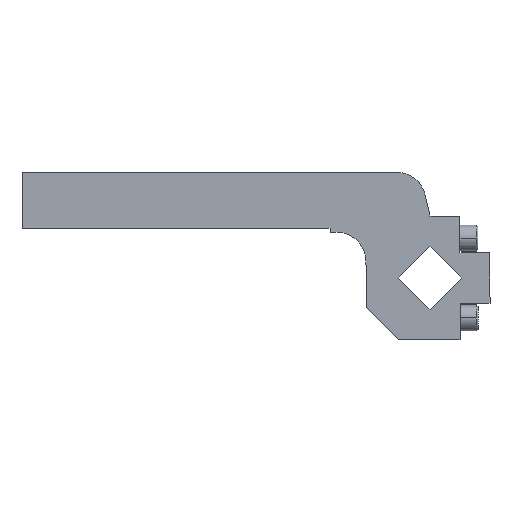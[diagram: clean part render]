
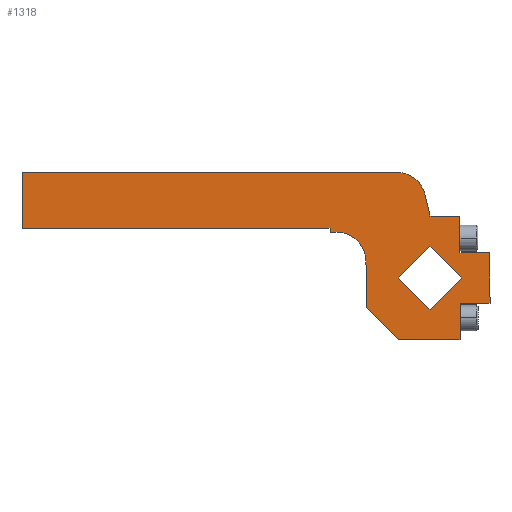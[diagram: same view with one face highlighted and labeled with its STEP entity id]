
A CAD part, front view. The second image highlights one B-rep face of the part: STEP entity #1318.
In plain terms, the highlighted planar face has unit normal (0, -1, 0).
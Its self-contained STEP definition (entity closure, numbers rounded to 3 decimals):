
#51=CARTESIAN_POINT('',(53.607,-10.,-6.393));
#52=VERTEX_POINT('',#51);
#68=CARTESIAN_POINT('',(58.,-10.0,-17.0));
#69=VERTEX_POINT('',#68);
#76=CARTESIAN_POINT('',(43.,-10.0,-17.));
#77=DIRECTION('',(0.,-1.,0.));
#78=DIRECTION('',(0.707,0.,0.707));
#79=AXIS2_PLACEMENT_3D('',#76,#77,#78);
#80=CIRCLE('',#79,15.);
#81=EDGE_CURVE('',#69,#52,#80,.T.);
#93=CARTESIAN_POINT('',(82.327,-10.,24.739));
#94=VERTEX_POINT('',#93);
#110=CARTESIAN_POINT('',(72.989,-10.0,28.));
#111=VERTEX_POINT('',#110);
#118=CARTESIAN_POINT('',(72.989,-10.0,13.0));
#119=DIRECTION('',(0.,1.0,0.));
#120=DIRECTION('',(0.623,0.,0.783));
#121=AXIS2_PLACEMENT_3D('',#118,#119,#120);
#122=CIRCLE('',#121,15.);
#123=EDGE_CURVE('',#111,#94,#122,.T.);
#765=CARTESIAN_POINT('',(-114.,-10.,0.));
#766=VERTEX_POINT('',#765);
#773=CARTESIAN_POINT('',(-114.0,-10.,28.));
#774=VERTEX_POINT('',#773);
#775=CARTESIAN_POINT('',(-114.0,-10.,28.));
#776=DIRECTION('',(0.0,0.0,-1.0));
#777=VECTOR('',#776,28.);
#778=LINE('',#775,#777);
#779=EDGE_CURVE('',#774,#766,#778,.T.);
#941=CARTESIAN_POINT('',(105.556,-10.0,-25.));
#942=VERTEX_POINT('',#941);
#943=CARTESIAN_POINT('',(90.,-10.0,-40.556));
#944=VERTEX_POINT('',#943);
#945=CARTESIAN_POINT('',(105.556,-10.0,-25.));
#946=DIRECTION('',(-0.707,0.0,-0.707));
#947=VECTOR('',#946,22.);
#948=LINE('',#945,#947);
#949=EDGE_CURVE('',#942,#944,#948,.T.);
#981=CARTESIAN_POINT('',(90.,-10.0,-9.444));
#982=VERTEX_POINT('',#981);
#983=CARTESIAN_POINT('',(90.,-10.0,-9.444));
#984=DIRECTION('',(0.707,0.0,-0.707));
#985=VECTOR('',#984,22.);
#986=LINE('',#983,#985);
#987=EDGE_CURVE('',#982,#942,#986,.T.);
#1012=CARTESIAN_POINT('',(90.,-10.0,6.));
#1013=VERTEX_POINT('',#1012);
#1014=CARTESIAN_POINT('',(105.,-10.0,6.));
#1015=VERTEX_POINT('',#1014);
#1016=CARTESIAN_POINT('',(90.,-10.0,6.));
#1017=DIRECTION('',(1.0,0.0,0.0));
#1018=VECTOR('',#1017,15.0);
#1019=LINE('',#1016,#1018);
#1020=EDGE_CURVE('',#1013,#1015,#1019,.T.);
#1052=CARTESIAN_POINT('',(105.,-10.0,-12.25));
#1053=VERTEX_POINT('',#1052);
#1054=CARTESIAN_POINT('',(105.,-10.0,6.));
#1055=DIRECTION('',(0.0,0.0,-1.0));
#1056=VECTOR('',#1055,18.25);
#1057=LINE('',#1054,#1056);
#1058=EDGE_CURVE('',#1015,#1053,#1057,.T.);
#1087=CARTESIAN_POINT('',(120.,-10.0,-12.25));
#1088=VERTEX_POINT('',#1087);
#1089=CARTESIAN_POINT('',(105.,-10.0,-12.25));
#1090=DIRECTION('',(1.0,0.0,0.0));
#1091=VECTOR('',#1090,15.0);
#1092=LINE('',#1089,#1091);
#1093=EDGE_CURVE('',#1053,#1088,#1092,.T.);
#1118=CARTESIAN_POINT('',(120.,-10.0,-37.75));
#1119=VERTEX_POINT('',#1118);
#1120=CARTESIAN_POINT('',(120.,-10.0,-12.25));
#1121=DIRECTION('',(0.0,0.0,-1.0));
#1122=VECTOR('',#1121,25.5);
#1123=LINE('',#1120,#1122);
#1124=EDGE_CURVE('',#1088,#1119,#1123,.T.);
#1149=CARTESIAN_POINT('',(105.,-10.0,-37.75));
#1150=VERTEX_POINT('',#1149);
#1151=CARTESIAN_POINT('',(120.,-10.0,-37.75));
#1152=DIRECTION('',(-1.0,0.0,0.0));
#1153=VECTOR('',#1152,15.0);
#1154=LINE('',#1151,#1153);
#1155=EDGE_CURVE('',#1119,#1150,#1154,.T.);
#1180=CARTESIAN_POINT('',(105.,-10.0,-56.));
#1181=VERTEX_POINT('',#1180);
#1182=CARTESIAN_POINT('',(105.,-10.0,-37.75));
#1183=DIRECTION('',(0.0,0.0,-1.0));
#1184=VECTOR('',#1183,18.25);
#1185=LINE('',#1182,#1184);
#1186=EDGE_CURVE('',#1150,#1181,#1185,.T.);
#1210=CARTESIAN_POINT('',(43.,-10.0,-2.0));
#1211=DIRECTION('',(0.0,-1.0,0.0));
#1212=DIRECTION('',(1.0,0.0,0.0));
#1213=AXIS2_PLACEMENT_3D('',#1210,#1211,#1212);
#1214=PLANE('',#1213);
#1215=CARTESIAN_POINT('',(74.,-10.0,-56.));
#1216=VERTEX_POINT('',#1215);
#1217=CARTESIAN_POINT('',(105.,-10.0,-56.));
#1218=DIRECTION('',(-1.0,0.0,0.0));
#1219=VECTOR('',#1218,31.);
#1220=LINE('',#1217,#1219);
#1221=EDGE_CURVE('',#1181,#1216,#1220,.T.);
#1222=ORIENTED_EDGE('',*,*,#1221,.F.);
#1223=ORIENTED_EDGE('',*,*,#1186,.F.);
#1224=ORIENTED_EDGE('',*,*,#1155,.F.);
#1225=ORIENTED_EDGE('',*,*,#1124,.F.);
#1226=ORIENTED_EDGE('',*,*,#1093,.F.);
#1227=ORIENTED_EDGE('',*,*,#1058,.F.);
#1228=ORIENTED_EDGE('',*,*,#1020,.F.);
#1229=CARTESIAN_POINT('',(87.605,-10.0,16.374));
#1230=VERTEX_POINT('',#1229);
#1231=CARTESIAN_POINT('',(87.605,-10.0,16.374));
#1232=DIRECTION('',(0.225,0.0,-0.974));
#1233=VECTOR('',#1232,10.647);
#1234=LINE('',#1231,#1233);
#1235=EDGE_CURVE('',#1230,#1013,#1234,.T.);
#1236=ORIENTED_EDGE('',*,*,#1235,.F.);
#1237=CARTESIAN_POINT('',(72.989,-10.0,13.0));
#1238=DIRECTION('',(0.,1.0,0.));
#1239=DIRECTION('',(0.623,0.,0.783));
#1240=AXIS2_PLACEMENT_3D('',#1237,#1238,#1239);
#1241=CIRCLE('',#1240,15.);
#1242=EDGE_CURVE('',#94,#1230,#1241,.T.);
#1243=ORIENTED_EDGE('',*,*,#1242,.F.);
#1244=ORIENTED_EDGE('',*,*,#123,.F.);
#1245=CARTESIAN_POINT('',(-114.0,-10.,28.));
#1246=DIRECTION('',(1.0,0.0,0.0));
#1247=VECTOR('',#1246,186.989);
#1248=LINE('',#1245,#1247);
#1249=EDGE_CURVE('',#774,#111,#1248,.T.);
#1250=ORIENTED_EDGE('',*,*,#1249,.F.);
#1251=ORIENTED_EDGE('',*,*,#779,.T.);
#1252=CARTESIAN_POINT('',(40.,-10.0,0.0));
#1253=VERTEX_POINT('',#1252);
#1254=CARTESIAN_POINT('',(-114.,-10.,0.));
#1255=DIRECTION('',(1.0,0.0,0.0));
#1256=VECTOR('',#1255,154.0);
#1257=LINE('',#1254,#1256);
#1258=EDGE_CURVE('',#766,#1253,#1257,.T.);
#1259=ORIENTED_EDGE('',*,*,#1258,.T.);
#1260=CARTESIAN_POINT('',(40.,-10.0,-2.0));
#1261=VERTEX_POINT('',#1260);
#1262=CARTESIAN_POINT('',(40.,-10.0,-2.0));
#1263=DIRECTION('',(0.0,0.0,1.0));
#1264=VECTOR('',#1263,2.0);
#1265=LINE('',#1262,#1264);
#1266=EDGE_CURVE('',#1261,#1253,#1265,.T.);
#1267=ORIENTED_EDGE('',*,*,#1266,.F.);
#1268=CARTESIAN_POINT('',(43.,-10.0,-2.0));
#1269=VERTEX_POINT('',#1268);
#1270=CARTESIAN_POINT('',(43.,-10.0,-2.0));
#1271=DIRECTION('',(-1.0,0.0,0.0));
#1272=VECTOR('',#1271,3.);
#1273=LINE('',#1270,#1272);
#1274=EDGE_CURVE('',#1269,#1261,#1273,.T.);
#1275=ORIENTED_EDGE('',*,*,#1274,.F.);
#1276=CARTESIAN_POINT('',(43.,-10.0,-17.));
#1277=DIRECTION('',(0.,-1.,0.));
#1278=DIRECTION('',(0.707,0.,0.707));
#1279=AXIS2_PLACEMENT_3D('',#1276,#1277,#1278);
#1280=CIRCLE('',#1279,15.);
#1281=EDGE_CURVE('',#52,#1269,#1280,.T.);
#1282=ORIENTED_EDGE('',*,*,#1281,.F.);
#1283=ORIENTED_EDGE('',*,*,#81,.F.);
#1284=CARTESIAN_POINT('',(58.,-10.0,-40.));
#1285=VERTEX_POINT('',#1284);
#1286=CARTESIAN_POINT('',(58.,-10.0,-40.));
#1287=DIRECTION('',(0.0,0.0,1.0));
#1288=VECTOR('',#1287,23.);
#1289=LINE('',#1286,#1288);
#1290=EDGE_CURVE('',#1285,#69,#1289,.T.);
#1291=ORIENTED_EDGE('',*,*,#1290,.F.);
#1292=CARTESIAN_POINT('',(74.,-10.0,-56.));
#1293=DIRECTION('',(-0.707,0.0,0.707));
#1294=VECTOR('',#1293,22.627);
#1295=LINE('',#1292,#1294);
#1296=EDGE_CURVE('',#1216,#1285,#1295,.T.);
#1297=ORIENTED_EDGE('',*,*,#1296,.F.);
#1298=EDGE_LOOP('',(#1222,#1223,#1224,#1225,#1226,#1227,#1228,#1236,#1243,#1244,#1250,#1251,#1259,#1267,#1275,#1282,#1283,#1291,#1297));
#1299=FACE_OUTER_BOUND('',#1298,.T.);
#1300=CARTESIAN_POINT('',(74.444,-10.0,-25.));
#1301=VERTEX_POINT('',#1300);
#1302=CARTESIAN_POINT('',(90.,-10.0,-40.556));
#1303=DIRECTION('',(-0.707,0.0,0.707));
#1304=VECTOR('',#1303,22.);
#1305=LINE('',#1302,#1304);
#1306=EDGE_CURVE('',#944,#1301,#1305,.T.);
#1307=ORIENTED_EDGE('',*,*,#1306,.T.);
#1308=CARTESIAN_POINT('',(74.444,-10.0,-25.));
#1309=DIRECTION('',(0.707,0.0,0.707));
#1310=VECTOR('',#1309,22.);
#1311=LINE('',#1308,#1310);
#1312=EDGE_CURVE('',#1301,#982,#1311,.T.);
#1313=ORIENTED_EDGE('',*,*,#1312,.T.);
#1314=ORIENTED_EDGE('',*,*,#987,.T.);
#1315=ORIENTED_EDGE('',*,*,#949,.T.);
#1316=EDGE_LOOP('',(#1307,#1313,#1314,#1315));
#1317=FACE_BOUND('',#1316,.T.);
#1318=ADVANCED_FACE('',(#1299,#1317),#1214,.T.);
